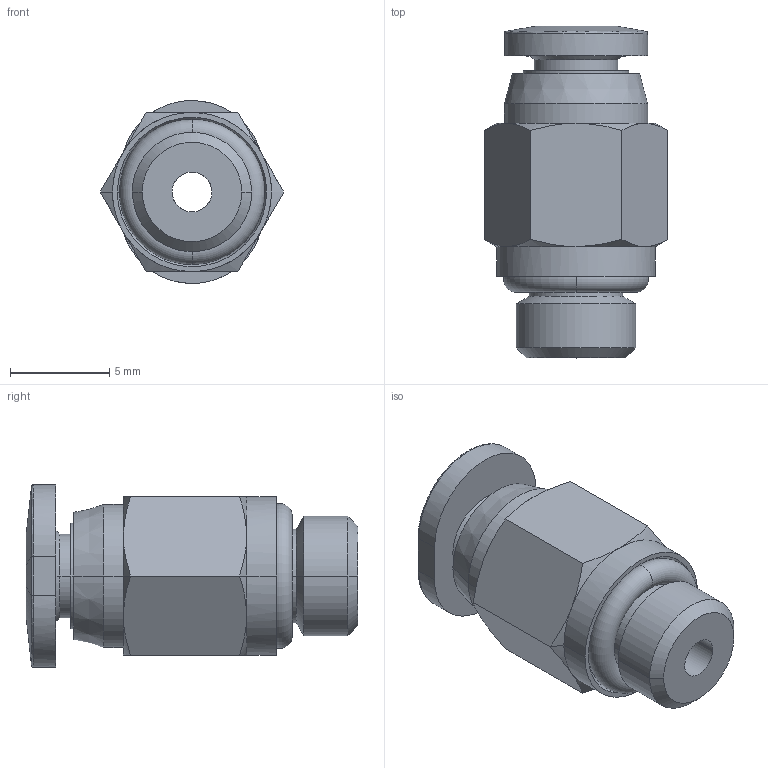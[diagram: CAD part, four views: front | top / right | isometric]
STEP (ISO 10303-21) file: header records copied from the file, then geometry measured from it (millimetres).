
FILE_DESCRIPTION (( 'STEP AP203' ), '1' );
FILE_NAME ('FMH03-M6.STEP', '2020-07-07T10:49:05', ( '' ), ( '' ), 'SwSTEP 2.0', 'SolidWorks 2019', '' );
FILE_SCHEMA (( 'CONFIG_CONTROL_DESIGN' ));
Length unit declared in the file: millimetre
Products named in the file (1): FMH03-M6
Bounding box: 9.24 x 16.7 x 9.2 mm (x, y, z)
Surface area: 801.3 mm2 (no closed solid volume)
Topology: 0 solids, 4 shells, 82 faces, 185 edges, 113 vertices
Faces by surface type: cone 26, cylinder 20, plane 18, bspline 12, torus 6
Entity records: 4452 total; most frequent: CARTESIAN_POINT 2888, ORIENTED_EDGE 354, DIRECTION 186, EDGE_CURVE 185, B_SPLINE_CURVE_WITH_KNOTS 147, VERTEX_POINT 113, EDGE_LOOP 92, FACE_OUTER_BOUND 82
